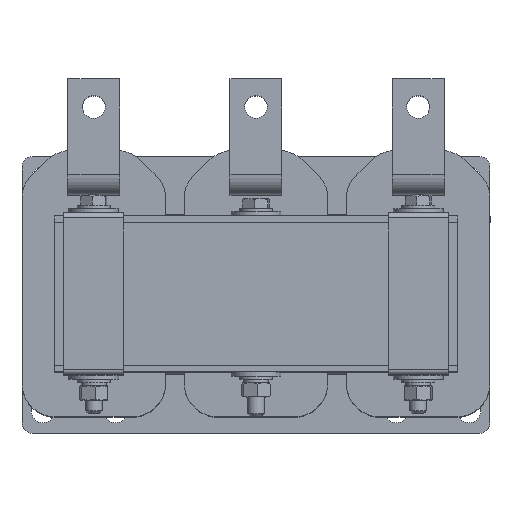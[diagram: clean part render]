
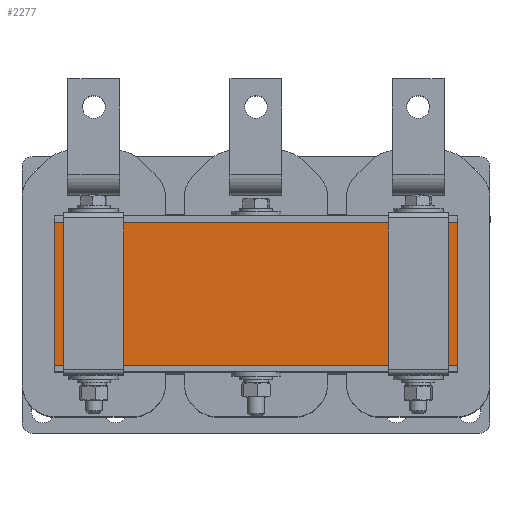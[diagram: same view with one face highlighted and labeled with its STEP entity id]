
A CAD part, top view. The second image highlights one B-rep face of the part: STEP entity #2277.
In plain terms, the highlighted planar face has unit normal (0, 0, 1).
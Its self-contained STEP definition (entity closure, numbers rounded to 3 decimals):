
#2277=ADVANCED_FACE('',(#3054),#3056,.T.);
#3054=FACE_BOUND('',#3055,.T.);
#3055=EDGE_LOOP('',(#4319,#4320,#4321,#4322));
#3056=PLANE('',#3057);
#3057=AXIS2_PLACEMENT_3D('',#3058,#3059,#3060);
#3058=CARTESIAN_POINT('',(0.,0.,249.1));
#3059=DIRECTION('',(0.,0.,1.));
#3060=DIRECTION('',(-1.,0.,0.));
#4319=ORIENTED_EDGE('',*,*,#5011,.T.);
#4320=ORIENTED_EDGE('',*,*,#5015,.T.);
#4321=ORIENTED_EDGE('',*,*,#5018,.T.);
#4322=ORIENTED_EDGE('',*,*,#5020,.T.);
#5011=EDGE_CURVE('',#5427,#5425,#5428,.T.);
#5015=EDGE_CURVE('',#5425,#5432,#5434,.T.);
#5018=EDGE_CURVE('',#5432,#5437,#5439,.T.);
#5020=EDGE_CURVE('',#5437,#5427,#5441,.T.);
#5425=VERTEX_POINT('',#6167);
#5427=VERTEX_POINT('',#6171);
#5428=LINE('',#6172,#6173);
#5432=VERTEX_POINT('',#6182);
#5434=LINE('',#6186,#6187);
#5437=VERTEX_POINT('',#6193);
#5439=LINE('',#6197,#6198);
#5441=LINE('',#6203,#6204);
#6167=CARTESIAN_POINT('',(-97.,-34.5,249.1));
#6171=CARTESIAN_POINT('',(-97.,34.5,249.1));
#6172=CARTESIAN_POINT('',(-97.,34.5,249.1));
#6173=VECTOR('',#6174,1.);
#6174=DIRECTION('',(0.,-1.,0.));
#6182=CARTESIAN_POINT('',(97.,-34.5,249.1));
#6186=CARTESIAN_POINT('',(-97.,-34.5,249.1));
#6187=VECTOR('',#6188,1.);
#6188=DIRECTION('',(1.,0.,0.));
#6193=CARTESIAN_POINT('',(97.,34.5,249.1));
#6197=CARTESIAN_POINT('',(97.,-34.5,249.1));
#6198=VECTOR('',#6199,1.);
#6199=DIRECTION('',(0.,1.,0.));
#6203=CARTESIAN_POINT('',(97.,34.5,249.1));
#6204=VECTOR('',#6205,1.);
#6205=DIRECTION('',(-1.,0.,0.));
